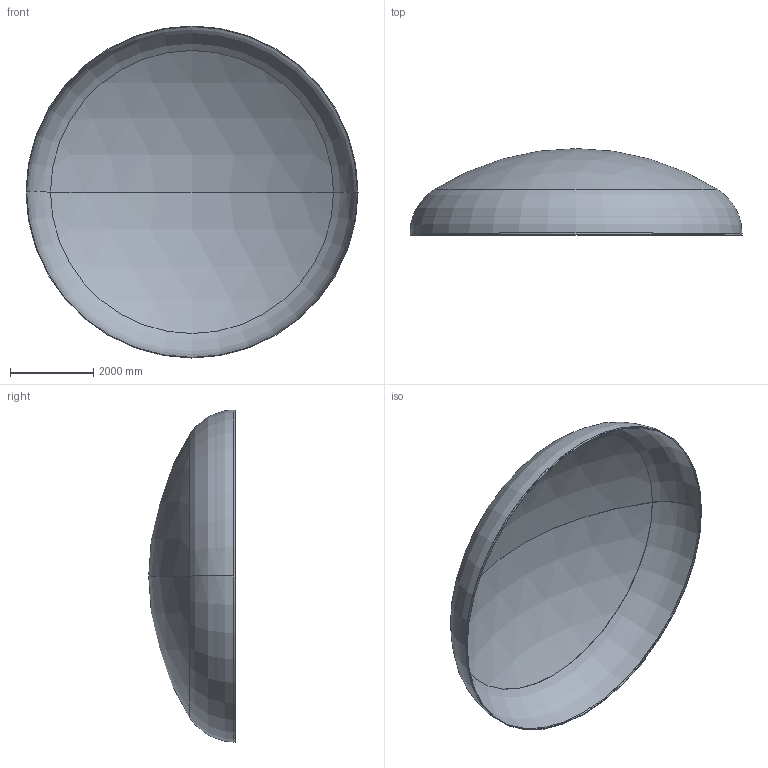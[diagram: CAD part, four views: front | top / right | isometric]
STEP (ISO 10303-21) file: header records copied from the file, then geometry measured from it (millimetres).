
FILE_DESCRIPTION (( 'STEP AP203' ), '1' );
FILE_NAME ('DIN 28013 Korbbogenform_-_Boden DIN 28013 - 8000 x 45 - I - s=15.step', '2016-07-04T10:58:44', ( '' ), ( '' ), 'SwSTEP 2.0', 'SolidWorks 2013', '' );
FILE_SCHEMA (( 'CONFIG_CONTROL_DESIGN' ));
Length unit declared in the file: millimetre
Products named in the file (1): DIN 28013 Korbbogenform_-_Boden DIN 28013 - 8000 x 45 - I - s=15
Bounding box: 8000 x 2085.2 x 8000 mm (x, y, z)
Volume: 1058372195.2 mm3; surface area: 141492989.6 mm2
Topology: 1 solids, 1 shells, 13 faces, 24 edges, 14 vertices
Faces by surface type: torus 4, cylinder 4, sphere 4, plane 1
Entity records: 407 total; most frequent: DIRECTION 72, CARTESIAN_POINT 52, ORIENTED_EDGE 48, AXIS2_PLACEMENT_3D 34, EDGE_CURVE 24, CIRCLE 20, EDGE_LOOP 14, VERTEX_POINT 14
